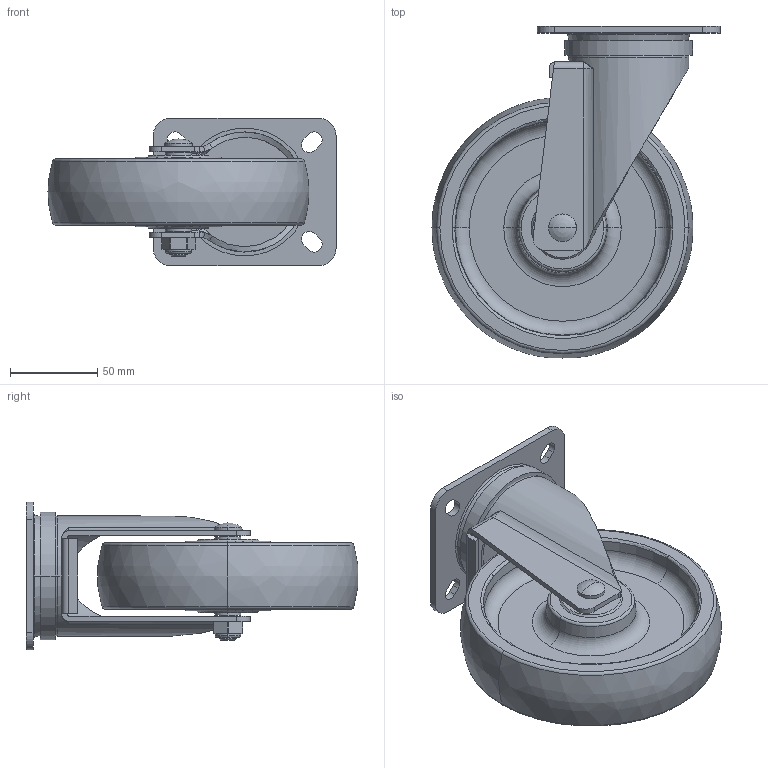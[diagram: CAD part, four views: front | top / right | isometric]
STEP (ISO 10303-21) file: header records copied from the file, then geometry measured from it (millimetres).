
FILE_DESCRIPTION((''),'2;1');
FILE_NAME('64116-646-06_ASM','2021-02-24T',('lenovo'),(''),'PRO/ENGINEER BY PARAMETRIC TECHNOLOGY CORPORATION, 2010280','PRO/ENGINEER BY PARAMETRIC TECHNOLOGY CORPORATION, 2010280','');
FILE_SCHEMA(('CONFIG_CONTROL_DESIGN'));
Length unit declared in the file: millimetre
Products named in the file (6): 640-01; 646-11; 646-806; 630-33A; 630-34; 64116-646-06_ASM
Assembly tree (5 placements, depth 2):
  64116-646-06_ASM
    640-01
    646-11
    646-806
    630-33A
    630-34
Bounding box: 165.53 x 190.7 x 85 mm (x, y, z)
Volume: 505783.2 mm3; surface area: 125619 mm2
Topology: 6 solids, 6 shells, 228 faces, 523 edges, 319 vertices
Faces by surface type: plane 65, cylinder 61, torus 48, cone 36, bspline 16, sphere 2
Entity records: 7693 total; most frequent: CARTESIAN_POINT 2336, DIRECTION 1175, ORIENTED_EDGE 1042, EDGE_CURVE 521, AXIS2_PLACEMENT_3D 493, VERTEX_POINT 319, CIRCLE 270, EDGE_LOOP 260
